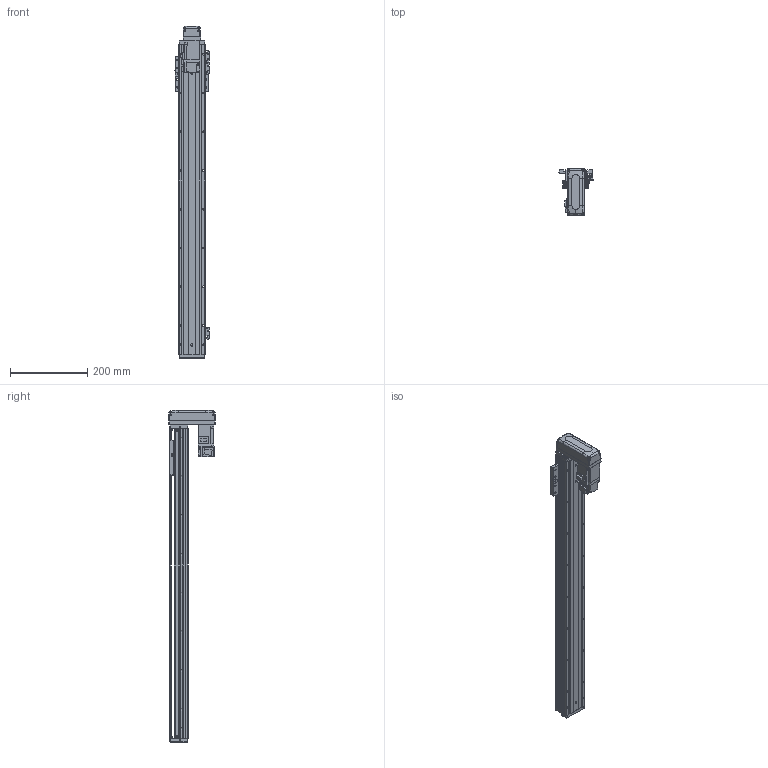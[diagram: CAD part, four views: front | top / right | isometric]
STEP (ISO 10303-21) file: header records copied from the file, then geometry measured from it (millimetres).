
FILE_DESCRIPTION (( 'STEP AP203' ), '1' );
FILE_NAME ('KTHAL60-650-BM-M10-C4L.step', '2022-03-19T08:41:57', ( '微软用户' ), ( '微软中国' ), 'SwSTEP 2.0', 'SolidWorks 2020', '' );
FILE_SCHEMA (( 'CONFIG_CONTROL_DESIGN' ));
Length unit declared in the file: millimetre
Products named in the file (18): EE_SX911P_R; HG-KR13（三菱）; KTHA60-001_800; CTHA60-017; CTHA60-015-2_CTHA60-015-2; KTHLA60-002; CTHA60-021; CTHA60-033; KTHA60-004; GBT 70.1-M4×16; GBT 70.1-M3×15; KTHA60-005; GBT77-2000M3-3; KTHAL60-650-BM-M10-C4L; GB¨uT 70.2-M3¡Á5_M3¡Á6; GBT 70.1-M3℅6; GBT 70.3-M3℅6; CTHA60-016
Assembly tree (51 placements, depth 2):
  KTHAL60-650-BM-M10-C4L
    KTHA60-001_800
    KTHLA60-002
    KTHA60-004
    KTHA60-005
    GB¨uT 70.2-M3¡Á5_M3¡Á6  x5
    GBT 70.3-M3℅6  x4
    EE_SX911P_R  x3
    CTHA60-017  x3
    CTHA60-021  x2
    GBT 70.1-M4×16  x10
    GBT77-2000M3-3  x6
    GBT 70.1-M3℅6  x6
    CTHA60-016
    HG-KR13（三菱）
    CTHA60-015-2_CTHA60-015-2
    CTHA60-033
    GBT 70.1-M3×15  x4
Bounding box: 87.82 x 120 x 857 mm (x, y, z)
Volume: 1779933.2 mm3; surface area: 440205 mm2
Topology: 54 solids, 54 shells, 2335 faces, 5555 edges, 3413 vertices
Faces by surface type: plane 1336, cylinder 571, cone 290, torus 98, bspline 26, sphere 14
Entity records: 41285 total; most frequent: CARTESIAN_POINT 7784, DIRECTION 6463, ORIENTED_EDGE 6254, EDGE_CURVE 3127, AXIS2_PLACEMENT_3D 2159, LINE 2145, VECTOR 2145, VERTEX_POINT 1962
